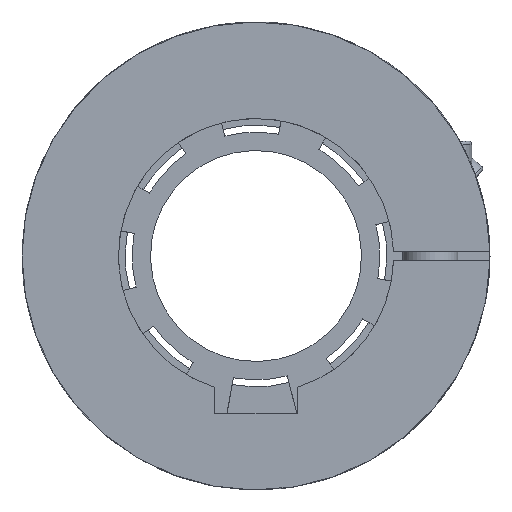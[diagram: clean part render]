
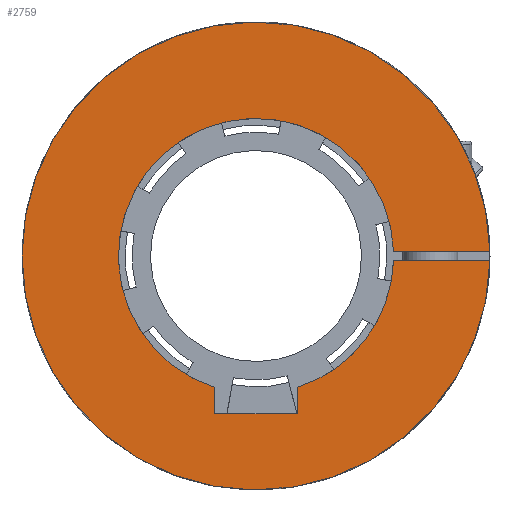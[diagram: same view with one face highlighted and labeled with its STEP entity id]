
A CAD part, left-side view. The second image highlights one B-rep face of the part: STEP entity #2759.
In plain terms, the highlighted planar face has unit normal (-1, 0, 0).
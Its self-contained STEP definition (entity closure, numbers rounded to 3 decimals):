
#68=PLANE('',#3038);
#195=FACE_OUTER_BOUND('',#353,.T.);
#353=EDGE_LOOP('',(#2004,#2005,#2006,#2007,#2008,#2009,#2010,#2011));
#515=LINE('',#4338,#776);
#518=LINE('',#4344,#779);
#519=LINE('',#4346,#780);
#524=LINE('',#4356,#785);
#539=LINE('',#4421,#800);
#776=VECTOR('',#3365,1.);
#779=VECTOR('',#3370,1.);
#780=VECTOR('',#3373,1.);
#785=VECTOR('',#3384,1000.);
#800=VECTOR('',#3463,1000.);
#1015=CIRCLE('',#2970,51.);
#1025=CIRCLE('',#2981,30.);
#1036=CIRCLE('',#2993,30.);
#1163=VERTEX_POINT('',#4155);
#1164=VERTEX_POINT('',#4156);
#1187=VERTEX_POINT('',#4282);
#1188=VERTEX_POINT('',#4283);
#1198=VERTEX_POINT('',#4304);
#1202=VERTEX_POINT('',#4312);
#1210=VERTEX_POINT('',#4336);
#1212=VERTEX_POINT('',#4342);
#1443=EDGE_CURVE('',#1163,#1164,#1015,.T.);
#1467=EDGE_CURVE('',#1187,#1188,#1025,.T.);
#1482=EDGE_CURVE('',#1198,#1202,#1036,.T.);
#1494=EDGE_CURVE('',#1202,#1210,#515,.T.);
#1497=EDGE_CURVE('',#1210,#1212,#518,.T.);
#1498=EDGE_CURVE('',#1212,#1187,#519,.T.);
#1504=EDGE_CURVE('',#1163,#1188,#524,.T.);
#1538=EDGE_CURVE('',#1198,#1164,#539,.T.);
#2004=ORIENTED_EDGE('',*,*,#1467,.T.);
#2005=ORIENTED_EDGE('',*,*,#1504,.F.);
#2006=ORIENTED_EDGE('',*,*,#1443,.T.);
#2007=ORIENTED_EDGE('',*,*,#1538,.F.);
#2008=ORIENTED_EDGE('',*,*,#1482,.T.);
#2009=ORIENTED_EDGE('',*,*,#1494,.T.);
#2010=ORIENTED_EDGE('',*,*,#1497,.T.);
#2011=ORIENTED_EDGE('',*,*,#1498,.T.);
#2759=ADVANCED_FACE('',(#195),#68,.F.);
#2970=AXIS2_PLACEMENT_3D('',#4157,#3281,#3282);
#2981=AXIS2_PLACEMENT_3D('',#4284,#3313,#3314);
#2993=AXIS2_PLACEMENT_3D('',#4314,#3341,#3342);
#3038=AXIS2_PLACEMENT_3D('',#4422,#3464,#3465);
#3281=DIRECTION('center_axis',(-1.,0.,0.));
#3282=DIRECTION('ref_axis',(0.,-1.,0.));
#3313=DIRECTION('center_axis',(1.,0.,0.));
#3314=DIRECTION('ref_axis',(0.,0.,-1.));
#3341=DIRECTION('center_axis',(1.,0.,0.));
#3342=DIRECTION('ref_axis',(0.,0.,-1.));
#3365=DIRECTION('',(0.,0.,-1.));
#3370=DIRECTION('',(0.,1.,0.));
#3373=DIRECTION('',(0.,0.,1.));
#3384=DIRECTION('',(0.,1.,0.));
#3463=DIRECTION('',(0.,-1.,0.));
#3464=DIRECTION('center_axis',(1.,0.,0.));
#3465=DIRECTION('ref_axis',(0.,0.,-1.));
#4155=CARTESIAN_POINT('',(0.,-50.99,1.));
#4156=CARTESIAN_POINT('',(0.,-50.99,-1.));
#4157=CARTESIAN_POINT('Origin',(0.,0.,
0.));
#4282=CARTESIAN_POINT('',(0.,9.,-28.618));
#4283=CARTESIAN_POINT('',(0.,-29.983,1.));
#4284=CARTESIAN_POINT('Origin',(0.,0.,0.));
#4304=CARTESIAN_POINT('',(0.,-29.983,-1.));
#4312=CARTESIAN_POINT('',(0.,-9.,-28.618));
#4314=CARTESIAN_POINT('Origin',(0.,0.,0.));
#4336=CARTESIAN_POINT('',(0.,-9.,-34.4));
#4338=CARTESIAN_POINT('',(0.,-9.,16.9));
#4342=CARTESIAN_POINT('',(0.,9.,-34.4));
#4344=CARTESIAN_POINT('',(0.,0.,-34.4));
#4346=CARTESIAN_POINT('',(0.,9.,16.9));
#4356=CARTESIAN_POINT('',(0.,-6.966,1.));
#4421=CARTESIAN_POINT('',(0.,-6.966,-1.));
#4422=CARTESIAN_POINT('Origin',(0.,0.,
51.));
